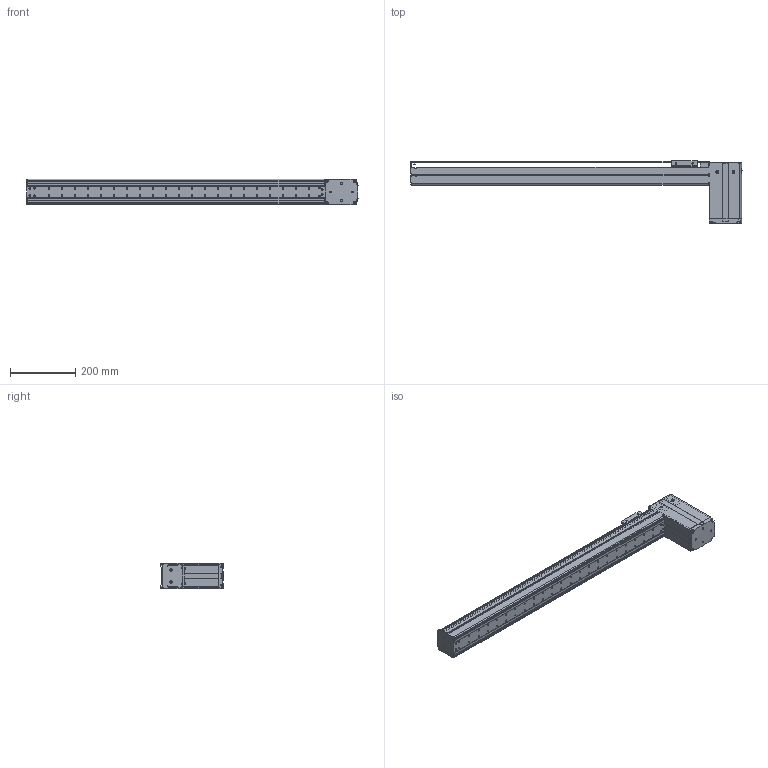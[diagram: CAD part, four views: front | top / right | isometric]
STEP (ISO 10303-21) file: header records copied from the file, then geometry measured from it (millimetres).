
FILE_DESCRIPTION((''),'2;1');
FILE_NAME('BE10_-BU-S_N-75_IGS_PRT','2017-06-18T',(' '),(''),'PRO/ENGINEER BY PARAMETRIC TECHNOLOGY CORPORATION, 2015030','PRO/ENGINEER BY PARAMETRIC TECHNOLOGY CORPORATION, 2015030','');
FILE_SCHEMA(('CONFIG_CONTROL_DESIGN'));
Length unit declared in the file: millimetre
Products named in the file (1): BE10_-BU-S_N-75_IGS_PRT
Bounding box: 1020.8 x 192.72 x 78 mm (x, y, z)
Volume: 1265511.4 mm3; surface area: 906217.6 mm2
Topology: 3 solids, 128 shells, 1931 faces, 5255 edges, 3463 vertices
Faces by surface type: plane 914, cylinder 856, cone 119, sphere 21, torus 19, bspline 2
Entity records: 62587 total; most frequent: CARTESIAN_POINT 12677, DIRECTION 10629, ORIENTED_EDGE 9962, EDGE_CURVE 5201, AXIS2_PLACEMENT_3D 3791, VERTEX_POINT 3463, VECTOR 3047, LINE 3047
